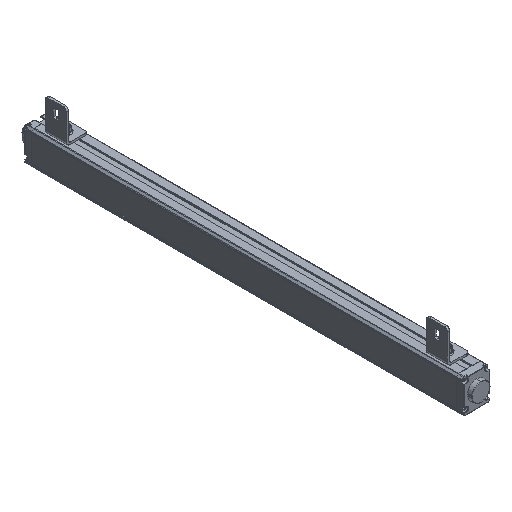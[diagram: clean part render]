
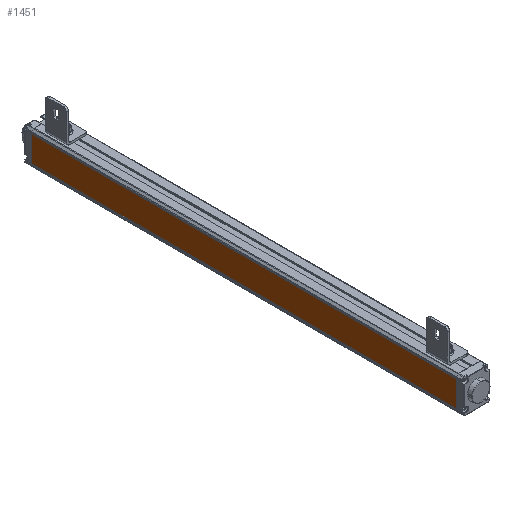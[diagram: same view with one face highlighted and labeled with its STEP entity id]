
A CAD part, isometric view. The second image highlights one B-rep face of the part: STEP entity #1451.
In plain terms, the highlighted planar face has unit normal (-1, 0, 0).
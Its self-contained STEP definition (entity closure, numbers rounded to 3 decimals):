
#24=DIRECTION('',(0.,0.,1.));
#25=VECTOR('',#24,35.4);
#26=CARTESIAN_POINT('',(-17.7,-292.5,-18.1));
#27=LINE('',#26,#25);
#361=DIRECTION('',(0.,0.,1.));
#362=VECTOR('',#361,35.4);
#363=CARTESIAN_POINT('',(-17.7,292.5,-18.1));
#364=LINE('',#363,#362);
#534=DIRECTION('',(0.,1.,0.));
#535=VECTOR('',#534,585.);
#536=CARTESIAN_POINT('',(-17.7,-292.5,17.3));
#537=LINE('',#536,#535);
#538=DIRECTION('',(0.,1.,0.));
#539=VECTOR('',#538,585.);
#540=CARTESIAN_POINT('',(-17.7,-292.5,-18.1));
#541=LINE('',#540,#539);
#613=CARTESIAN_POINT('',(-17.7,-292.5,-18.1));
#615=VERTEX_POINT('',#613);
#616=CARTESIAN_POINT('',(-17.7,-292.5,17.3));
#617=VERTEX_POINT('',#616);
#633=CARTESIAN_POINT('',(-17.7,292.5,-18.1));
#635=VERTEX_POINT('',#633);
#636=CARTESIAN_POINT('',(-17.7,292.5,17.3));
#637=VERTEX_POINT('',#636);
#1439=CARTESIAN_POINT('',(-17.7,-292.5,-18.1));
#1440=DIRECTION('',(-1.,0.,0.));
#1441=DIRECTION('',(0.,0.,1.));
#1442=AXIS2_PLACEMENT_3D('',#1439,#1440,#1441);
#1443=PLANE('',#1442);
#1444=ORIENTED_EDGE('',*,*,#741,.F.);
#1446=ORIENTED_EDGE('',*,*,#1445,.T.);
#1447=ORIENTED_EDGE('',*,*,#933,.T.);
#1448=ORIENTED_EDGE('',*,*,#1432,.F.);
#1449=EDGE_LOOP('',(#1444,#1446,#1447,#1448));
#1450=FACE_OUTER_BOUND('',#1449,.F.);
#1451=ADVANCED_FACE('',(#1450),#1443,.T.);
#741=EDGE_CURVE('',#615,#617,#27,.T.);
#933=EDGE_CURVE('',#635,#637,#364,.T.);
#1432=EDGE_CURVE('',#617,#637,#537,.T.);
#1445=EDGE_CURVE('',#615,#635,#541,.T.);
